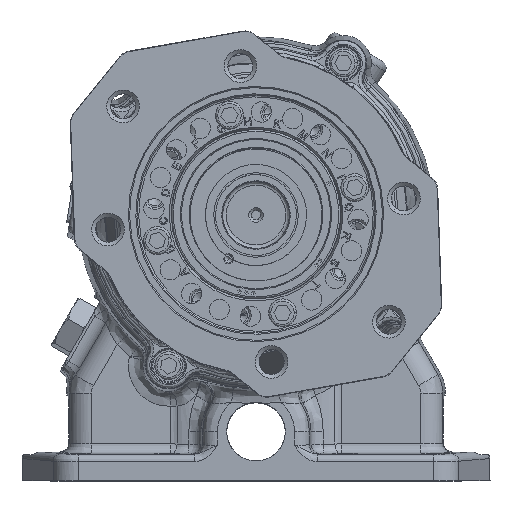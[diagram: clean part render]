
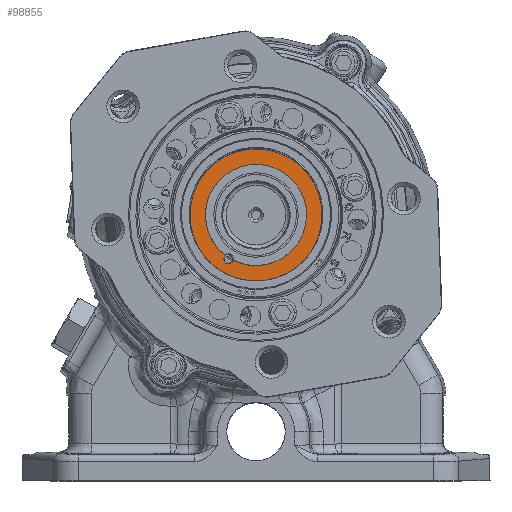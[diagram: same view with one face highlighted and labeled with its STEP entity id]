
A CAD part, top view. The second image highlights one B-rep face of the part: STEP entity #98855.
In plain terms, the highlighted planar face has unit normal (0, 0, 1) as drawn and (0, 0, -1) by its records, which use the part's own axes.
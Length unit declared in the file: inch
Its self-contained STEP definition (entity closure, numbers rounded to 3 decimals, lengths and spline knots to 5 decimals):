
#4711 = CIRCLE ( 'NONE', #108769, 0.85 ) ;
#6549 = CIRCLE ( 'NONE', #116912, 1.11 ) ;
#8175 = DIRECTION ( 'NONE',  ( 0., 0., 1. ) ) ;
#10838 = DIRECTION ( 'NONE',  ( 1., 0., 0. ) ) ;
#11914 = VERTEX_POINT ( 'NONE', #73654 ) ;
#13055 = DIRECTION ( 'NONE',  ( 1., 0., 0. ) ) ;
#18443 = VERTEX_POINT ( 'NONE', #135500 ) ;
#20218 = ORIENTED_EDGE ( 'NONE', *, *, #154505, .T. ) ;
#23153 = DIRECTION ( 'NONE',  ( 1., 0., 0. ) ) ;
#30514 = EDGE_CURVE ( 'NONE', #187910, #75628, #35511, .T. ) ;
#35511 = CIRCLE ( 'NONE', #145964, 0.85 ) ;
#35592 = FACE_BOUND ( 'NONE', #162249, .T. ) ;
#46471 = DIRECTION ( 'NONE',  ( 1., 0., 0. ) ) ;
#49954 = EDGE_CURVE ( 'NONE', #75628, #18443, #194517, .T. ) ;
#51878 = ORIENTED_EDGE ( 'NONE', *, *, #160256, .F. ) ;
#55681 = AXIS2_PLACEMENT_3D ( 'NONE', #108019, #104111, #91240 ) ;
#55803 = CIRCLE ( 'NONE', #106301, 0.07812 ) ;
#56672 = DIRECTION ( 'NONE',  ( 0., 0., 1. ) ) ;
#65806 = AXIS2_PLACEMENT_3D ( 'NONE', #146169, #165795, #10838 ) ;
#68360 = VERTEX_POINT ( 'NONE', #101040 ) ;
#71337 = DIRECTION ( 'NONE',  ( 0., 0., 1. ) ) ;
#73237 = ORIENTED_EDGE ( 'NONE', *, *, #121357, .T. ) ;
#73654 = CARTESIAN_POINT ( 'NONE',  ( 1.11, 0.35, -0.235 ) ) ;
#75628 = VERTEX_POINT ( 'NONE', #85092 ) ;
#77083 = CARTESIAN_POINT ( 'NONE',  ( 0., 0.35, -0.235 ) ) ;
#81192 = ORIENTED_EDGE ( 'NONE', *, *, #30514, .T. ) ;
#83582 = DIRECTION ( 'NONE',  ( 0., 0., 1. ) ) ;
#85092 = CARTESIAN_POINT ( 'NONE',  ( -0.85, 0.35, -0.235 ) ) ;
#88967 = DIRECTION ( 'NONE',  ( 0., 0., 1. ) ) ;
#91240 = DIRECTION ( 'NONE',  ( 1., 0., 0. ) ) ;
#94887 = PLANE ( 'NONE',  #180299 ) ;
#98216 = CARTESIAN_POINT ( 'NONE',  ( 0., 0.35, -0.235 ) ) ;
#98855 = ADVANCED_FACE ( 'NONE', ( #141324, #35592 ), #94887, .T. ) ;
#99386 = DIRECTION ( 'NONE',  ( -1., 0., 0. ) ) ;
#101040 = CARTESIAN_POINT ( 'NONE',  ( -1.11, 0.35, -0.235 ) ) ;
#104111 = DIRECTION ( 'NONE',  ( 0., 0., 1. ) ) ;
#106301 = AXIS2_PLACEMENT_3D ( 'NONE', #189819, #8175, #141574 ) ;
#108019 = CARTESIAN_POINT ( 'NONE',  ( 0., 0.35, -0.235 ) ) ;
#108769 = AXIS2_PLACEMENT_3D ( 'NONE', #98216, #56672, #23153 ) ;
#116912 = AXIS2_PLACEMENT_3D ( 'NONE', #132582, #71337, #13055 ) ;
#121357 = EDGE_CURVE ( 'NONE', #18443, #128720, #137669, .T. ) ;
#128720 = VERTEX_POINT ( 'NONE', #156984 ) ;
#132582 = CARTESIAN_POINT ( 'NONE',  ( 0., 0.35, -0.235 ) ) ;
#135500 = CARTESIAN_POINT ( 'NONE',  ( -0.07288, -0.49687, -0.235 ) ) ;
#137669 = CIRCLE ( 'NONE', #147096, 0.07812 ) ;
#141324 = FACE_OUTER_BOUND ( 'NONE', #190117, .T. ) ;
#141574 = DIRECTION ( 'NONE',  ( -1., 0., 0. ) ) ;
#144670 = ORIENTED_EDGE ( 'NONE', *, *, #174187, .F. ) ;
#145858 = EDGE_CURVE ( 'NONE', #177075, #187910, #4711, .T. ) ;
#145964 = AXIS2_PLACEMENT_3D ( 'NONE', #77083, #88967, #46471 ) ;
#146169 = CARTESIAN_POINT ( 'NONE',  ( 0., 0.35, -0.235 ) ) ;
#147096 = AXIS2_PLACEMENT_3D ( 'NONE', #174394, #83582, #99386 ) ;
#150532 = DIRECTION ( 'NONE',  ( -1., 0., 0. ) ) ;
#151497 = CARTESIAN_POINT ( 'NONE',  ( 0., 1.46, -0.235 ) ) ;
#154505 = EDGE_CURVE ( 'NONE', #128720, #177075, #55803, .T. ) ;
#156984 = CARTESIAN_POINT ( 'NONE',  ( 0., -0.60312, -0.235 ) ) ;
#158241 = CARTESIAN_POINT ( 'NONE',  ( 0.07288, -0.49687, -0.235 ) ) ;
#160256 = EDGE_CURVE ( 'NONE', #68360, #11914, #185586, .T. ) ;
#162249 = EDGE_LOOP ( 'NONE', ( #73237, #20218, #173478, #81192, #167661 ) ) ;
#164329 = DIRECTION ( 'NONE',  ( 0., 0., -1. ) ) ;
#165795 = DIRECTION ( 'NONE',  ( 0., 0., 1. ) ) ;
#167661 = ORIENTED_EDGE ( 'NONE', *, *, #49954, .T. ) ;
#173478 = ORIENTED_EDGE ( 'NONE', *, *, #145858, .T. ) ;
#174187 = EDGE_CURVE ( 'NONE', #11914, #68360, #6549, .T. ) ;
#174394 = CARTESIAN_POINT ( 'NONE',  ( 0., -0.525, -0.235 ) ) ;
#177075 = VERTEX_POINT ( 'NONE', #158241 ) ;
#180299 = AXIS2_PLACEMENT_3D ( 'NONE', #151497, #164329, #150532 ) ;
#184721 = CARTESIAN_POINT ( 'NONE',  ( 0.85, 0.35, -0.235 ) ) ;
#185586 = CIRCLE ( 'NONE', #65806, 1.11 ) ;
#187910 = VERTEX_POINT ( 'NONE', #184721 ) ;
#189819 = CARTESIAN_POINT ( 'NONE',  ( 0., -0.525, -0.235 ) ) ;
#190117 = EDGE_LOOP ( 'NONE', ( #144670, #51878 ) ) ;
#194517 = CIRCLE ( 'NONE', #55681, 0.85 ) ;
